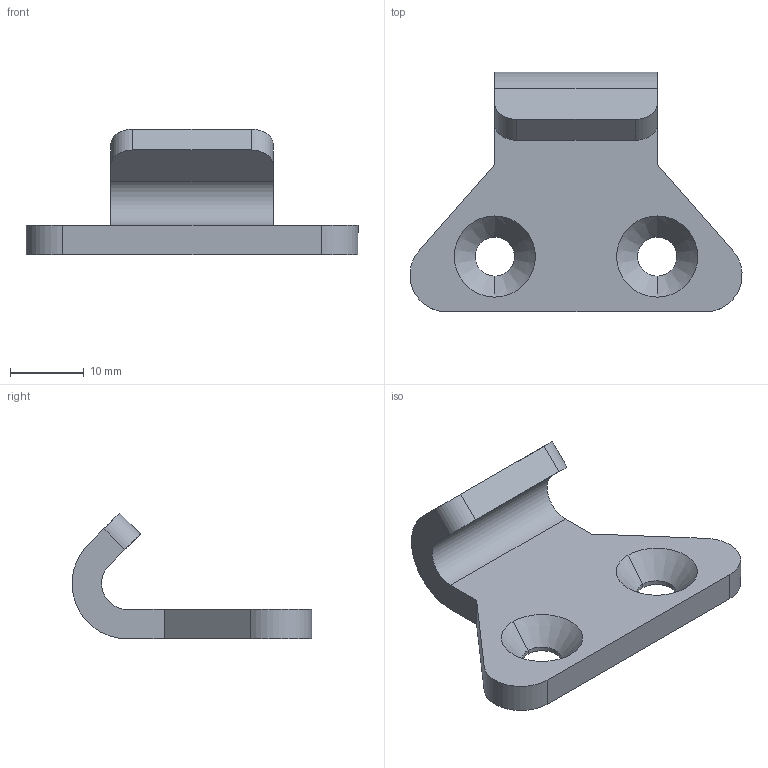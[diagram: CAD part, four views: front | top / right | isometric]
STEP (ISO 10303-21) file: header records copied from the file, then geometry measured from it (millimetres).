
FILE_DESCRIPTION (( 'STEP AP214' ), '1' );
FILE_NAME ('522831 - Striker 41 C ZP.STEP', '2016-08-23T09:40:34', ( '' ), ( '' ), 'SwSTEP 2.0', 'SolidWorks 2015', '' );
FILE_SCHEMA (( 'AUTOMOTIVE_DESIGN' ));
Length unit declared in the file: millimetre
Products named in the file (2): 522831 - Striker 41 C ZP
Bounding box: 44.98 x 32.49 x 17.05 mm (x, y, z)
Volume: 4647.8 mm3; surface area: 3160.1 mm2
Topology: 1 solids, 1 shells, 24 faces, 62 edges, 40 vertices
Faces by surface type: cylinder 10, plane 10, cone 4
Entity records: 795 total; most frequent: DIRECTION 138, CARTESIAN_POINT 128, ORIENTED_EDGE 124, EDGE_CURVE 62, AXIS2_PLACEMENT_3D 50, VERTEX_POINT 40, VECTOR 38, LINE 38
